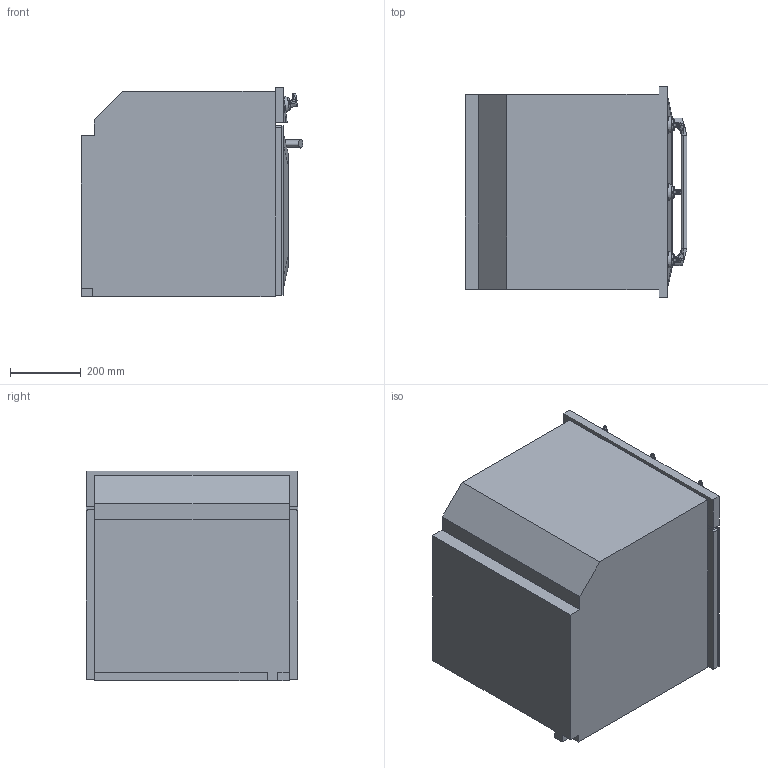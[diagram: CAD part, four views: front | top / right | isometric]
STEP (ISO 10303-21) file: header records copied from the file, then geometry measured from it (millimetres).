
FILE_DESCRIPTION(/* description */ (''),/* implementation_level */ '2;1');
FILE_NAME(/* name */ 'SF6903NO.stp',/* time_stamp */ '2017-10-30T09:28:08+01:00',/* author */ (''),/* organization */ (''),/* preprocessor_version */ 'ST-DEVELOPER v16',/* originating_system */ 'SIEMENS PLM Software NX 11.0',/* authorisation */ '');
FILE_SCHEMA (('AUTOMOTIVE_DESIGN { 1 0 10303 214 3 1 1 1 }'));
Length unit declared in the file: millimetre
Products named in the file (1): gras6F68B18Fmknn
Bounding box: 626.9 x 597 x 592 mm (x, y, z)
Volume: 179958097.5 mm3; surface area: 4339549 mm2
Topology: 19 solids, 20 shells, 581 faces, 1387 edges, 824 vertices
Faces by surface type: plane 211, cylinder 173, bspline 58, torus 45, sphere 39, cone 28, extrusion 27
Full cylindrical faces by diameter (mm): 2 x8, 5 x5, 20 x3, 34 x3, 46.8 x3
Entity records: 20603 total; most frequent: CARTESIAN_POINT 7700, DIRECTION 2623, ORIENTED_EDGE 2619, EDGE_CURVE 1310, AXIS2_PLACEMENT_3D 992, VERTEX_POINT 814, VECTOR 639, EDGE_LOOP 633
